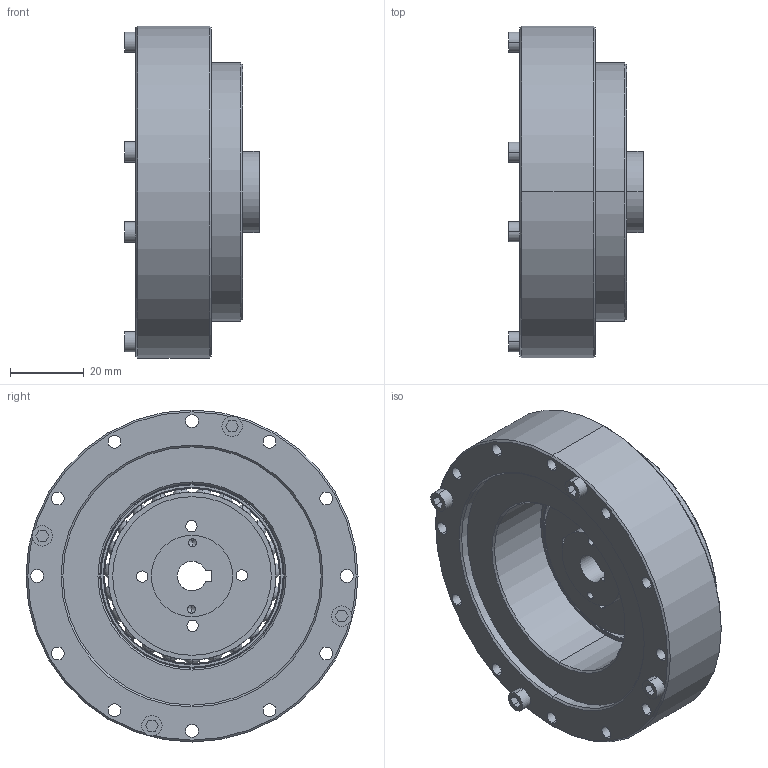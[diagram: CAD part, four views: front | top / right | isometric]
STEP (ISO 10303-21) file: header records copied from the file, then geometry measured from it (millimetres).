
FILE_DESCRIPTION((''),'2;1');
FILE_NAME('LHT-20-U-1_ASM','2019-04-13T',('Administrator'),(''),'PRO/ENGINEER BY PARAMETRIC TECHNOLOGY CORPORATION, 2014200','PRO/ENGINEER BY PARAMETRIC TECHNOLOGY CORPORATION, 2014200','');
FILE_SCHEMA(('AUTOMOTIVE_DESIGN { 1 0 10303 214 1 1 1 1 }'));
Length unit declared in the file: millimetre
Products named in the file (63): MANIFOLD_SOLID_BREP_6130; MANIFOLD_SOLID_BREP_6131; MANIFOLD_SOLID_BREP_6132; MANIFOLD_SOLID_BREP_6133; MANIFOLD_SOLID_BREP_6134; MANIFOLD_SOLID_BREP_6135; MANIFOLD_SOLID_BREP_6136; MANIFOLD_SOLID_BREP_6137; MANIFOLD_SOLID_BREP_6138; MANIFOLD_SOLID_BREP_6139; MANIFOLD_SOLID_BREP_6140; MANIFOLD_SOLID_BREP_6141; MANIFOLD_SOLID_BREP_6142; MANIFOLD_SOLID_BREP_6143; MANIFOLD_SOLID_BREP_6144; MANIFOLD_SOLID_BREP_6145; MANIFOLD_SOLID_BREP_6146; MANIFOLD_SOLID_BREP_6147; MANIFOLD_SOLID_BREP_6148; MANIFOLD_SOLID_BREP_6149; MANIFOLD_SOLID_BREP_6150; MANIFOLD_SOLID_BREP_6151; MANIFOLD_SOLID_BREP_6152; MANIFOLD_SOLID_BREP_6153; MANIFOLD_SOLID_BREP_6154; MANIFOLD_SOLID_BREP_6155; MANIFOLD_SOLID_BREP_6156; MANIFOLD_SOLID_BREP_6157; MANIFOLD_SOLID_BREP_6158; MANIFOLD_SOLID_BREP_6159; MANIFOLD_SOLID_BREP_6160; MANIFOLD_SOLID_BREP_6161; MANIFOLD_SOLID_BREP_6162; MANIFOLD_SOLID_BREP_6163; MANIFOLD_SOLID_BREP_6164; MANIFOLD_SOLID_BREP_6165; MANIFOLD_SOLID_BREP_6166; MANIFOLD_SOLID_BREP_6167; MANIFOLD_SOLID_BREP_6168; MANIFOLD_SOLID_BREP_6169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
Assembly tree (62 placements, depth 3):
  LHT-20-U-1_ASM
    ADMI7ED1CHG9_ASM
      MANIFOLD_SOLID_BREP_6130
      MANIFOLD_SOLID_BREP_6131
      MANIFOLD_SOLID_BREP_6132
      MANIFOLD_SOLID_BREP_6133
      MANIFOLD_SOLID_BREP_6134
      MANIFOLD_SOLID_BREP_6135
      MANIFOLD_SOLID_BREP_6136
      MANIFOLD_SOLID_BREP_6137
      MANIFOLD_SOLID_BREP_6138
      MANIFOLD_SOLID_BREP_6139
      MANIFOLD_SOLID_BREP_6140
      MANIFOLD_SOLID_BREP_6141
      MANIFOLD_SOLID_BREP_6142
      MANIFOLD_SOLID_BREP_6143
      MANIFOLD_SOLID_BREP_6144
      MANIFOLD_SOLID_BREP_6145
      MANIFOLD_SOLID_BREP_6146
      MANIFOLD_SOLID_BREP_6147
      MANIFOLD_SOLID_BREP_6148
      MANIFOLD_SOLID_BREP_6149
      MANIFOLD_SOLID_BREP_6150
      MANIFOLD_SOLID_BREP_6151
      MANIFOLD_SOLID_BREP_6152
      MANIFOLD_SOLID_BREP_6153
      MANIFOLD_SOLID_BREP_6154
      MANIFOLD_SOLID_BREP_6155
      MANIFOLD_SOLID_BREP_6156
      MANIFOLD_SOLID_BREP_6157
      MANIFOLD_SOLID_BREP_6158
      MANIFOLD_SOLID_BREP_6159
      MANIFOLD_SOLID_BREP_6160
      MANIFOLD_SOLID_BREP_6161
      MANIFOLD_SOLID_BREP_6162
      MANIFOLD_SOLID_BREP_6163
      MANIFOLD_SOLID_BREP_6164
      MANIFOLD_SOLID_BREP_6165
      MANIFOLD_SOLID_BREP_6166
      MANIFOLD_SOLID_BREP_6167
      MANIFOLD_SOLID_BREP_6168
      MANIFOLD_SOLID_BREP_6169
      MANIFOLD_SOLID_BREP_6170
      MANIFOLD_SOLID_BREP_6171
      MANIFOLD_SOLID_BREP_6172
      MANIFOLD_SOLID_BREP_6174
      MANIFOLD_SOLID_BREP_6175
      MANIFOLD_SOLID_BREP_6176
      MANIFOLD_SOLID_BREP_6177
      MANIFOLD_SOLID_BREP_6178
      MANIFOLD_SOLID_BREP_6179
      MANIFOLD_SOLID_BREP_6180
      MANIFOLD_SOLID_BREP_6181
      MANIFOLD_SOLID_BREP_6182
      MANIFOLD_SOLID_BREP_6183
      MANIFOLD_SOLID_BREP_6185
      MANIFOLD_SOLID_BREP_6186
      MANIFOLD_SOLID_BREP_6187
      MANIFOLD_SOLID_BREP_6188
      MANIFOLD_SOLID_BREP_6189
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Bounding box: 36.5 x 90 x 90 mm (x, y, z)
Volume: 116200.8 mm3; surface area: 45328.2 mm2
Topology: 61 solids, 61 shells, 717 faces, 1952 edges, 1168 vertices
Faces by surface type: cylinder 285, plane 200, cone 108, sphere 92, torus 32
Entity records: 31125 total; most frequent: DIRECTION 4582, CARTESIAN_POINT 3973, ORIENTED_EDGE 3432, AXIS2_PLACEMENT_3D 1963, PRESENTATION_STYLE_ASSIGNMENT 1777, STYLED_ITEM 1777, CURVE_STYLE 1716, EDGE_CURVE 1716
